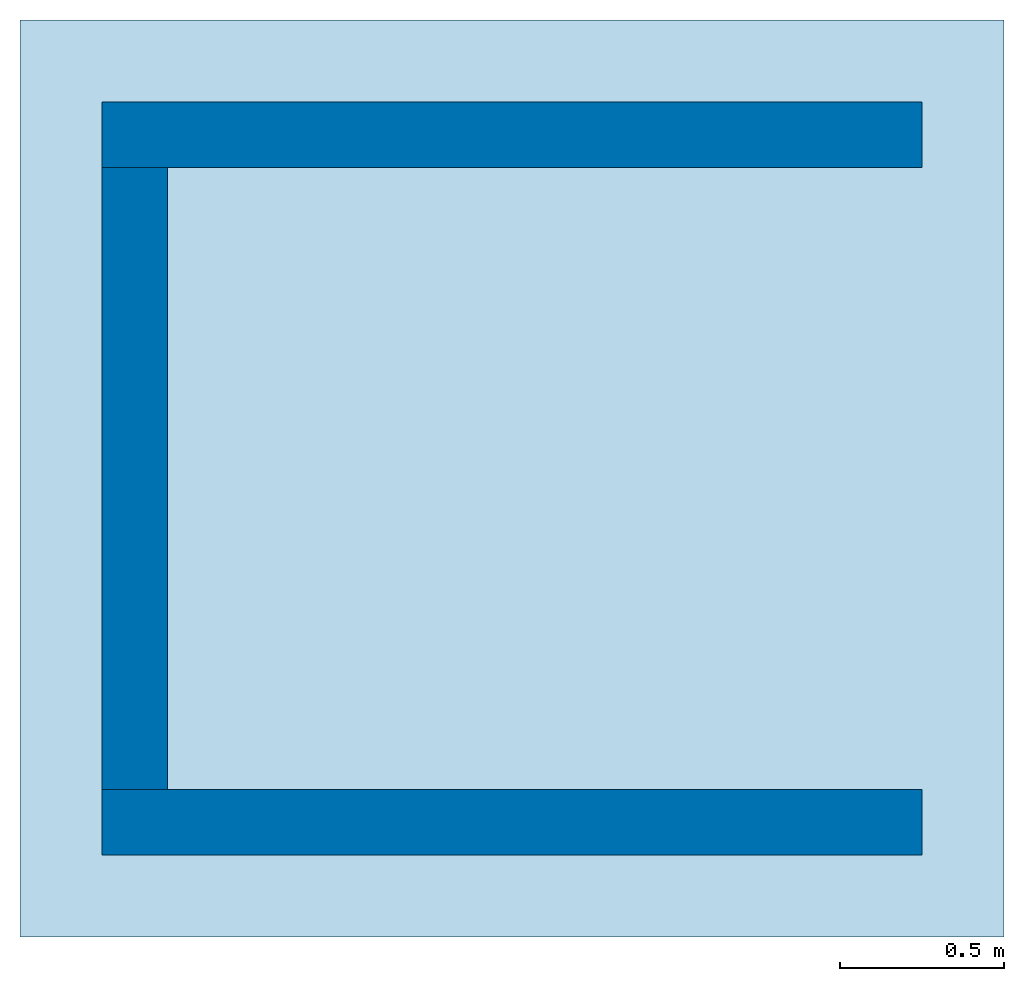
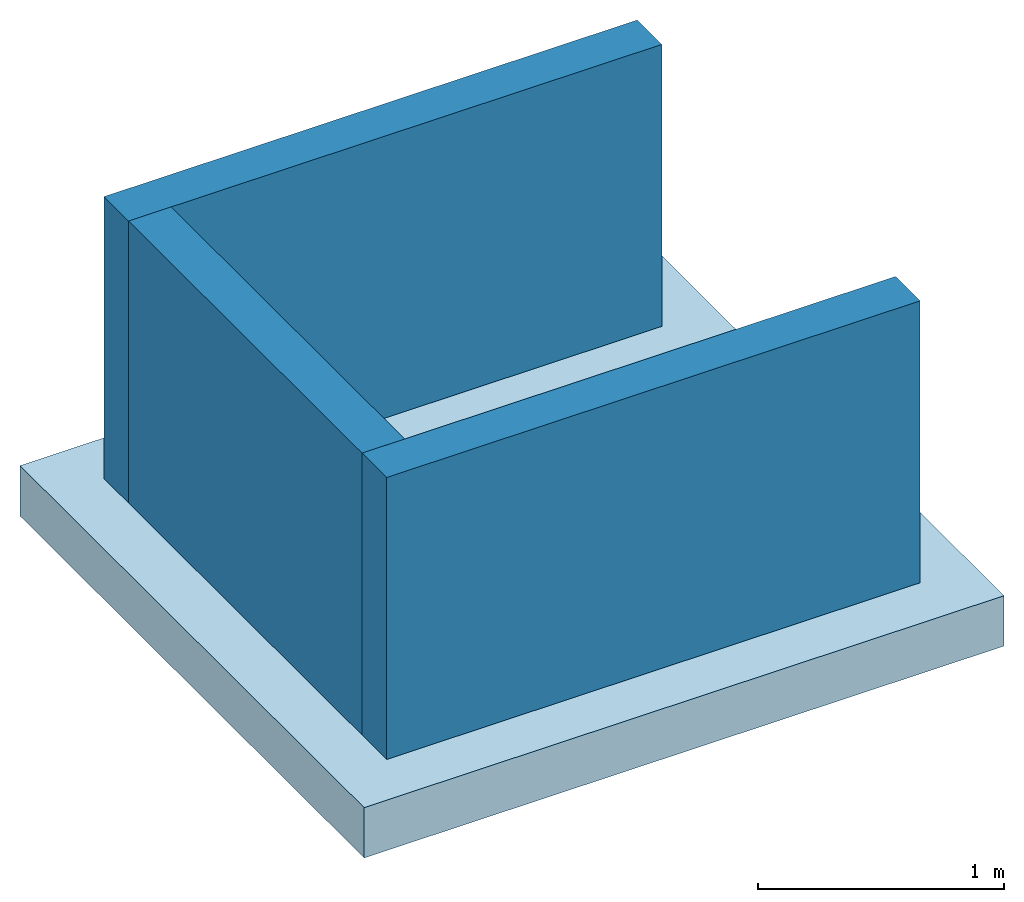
# One storey: 3 walls, 1 slab.
"""IFC4X3_ADD2 building model written with IfcOpenShell, lengths in millimetres."""

from ifc_helpers import new_model, si_unit, direction, frame, frame_2d, origin_with_axes, origin_2d_with_axis, place, context, subcontext, project, spatial, rectangle, extrude, material, type_object, element, save


model = new_model("IFC4X3_ADD2")

# Units and contexts
model_context = context("Model", 3, precision=1e-05, world=origin_with_axes(), true_north=direction((0.0, 1.0)))
body_context = subcontext(model_context, "Body", "Model", "MODEL_VIEW")
ifc_project = project(units=[si_unit("LENGTHUNIT", "METRE", prefix="MILLI"), si_unit("AREAUNIT", "SQUARE_METRE"), si_unit("VOLUMEUNIT", "CUBIC_METRE"), si_unit("PLANEANGLEUNIT", "RADIAN"), si_unit("TIMEUNIT", "SECOND"), si_unit("MASSUNIT", "GRAM")], contexts=[model_context])

# Site, building, storey
site_placement = place(None, origin_with_axes())
site = spatial("IfcSite", under=ifc_project, at=site_placement, Name="Site", CompositionType="ELEMENT")
building_placement = place(site_placement, origin_with_axes())
building = spatial("IfcBuilding", under=site, at=building_placement, Name="IFC Building Story")
storey_placement = place(building_placement, frame((0.0, 0.0, -10260.0), z_axis=(0.0, 0.0, 1.0), x_axis=(1.0, 0.0, 0.0)))
storey = spatial("IfcBuildingStorey", under=building, at=storey_placement, Name="TAW50", Elevation=-10260.0)

# Slab
ifc_material = material(Name="BB_Beton_Bestaand")
slab_type = type_object("IfcSlabType", Name="BB_Beton_Bestaand 250", PredefinedType="FLOOR", material=ifc_material)
slab_placement = place(storey_placement, frame((-20349.9999999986, 13365.00000000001, 2670.0), z_axis=(0.0, 0.0, 1.0), x_axis=(1.0, 0.0, 0.0)))
element("IfcSlab", 1, at=slab_placement, inside=storey, type_object=slab_type, Name="Floor:BB_XX_Vloer uit beton, 250 mm", ObjectType="Floor:BB_XX_Vloer uit beton, 250 mm", PredefinedType="FLOOR", context=body_context, shape_type="SweptSolid", body=[
    extrude(rectangle(XDim=3005.0000000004, YDim=2799.999999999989, at=origin_2d_with_axis()), frame((1502.5000000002, 1399.999999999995, 0.0), z_axis=(0.0, 0.0, 1.0), x_axis=(1.0, 0.0, 0.0)), (0.0, 0.0, 1.0), 249.999999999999),
])

# Walls
wall_type = type_object("IfcWallType", Name="BB_Beton_Bestaand 200", PredefinedType="NOTDEFINED", material=ifc_material)
wall_1_placement = place(storey_placement, origin_with_axes())
element("IfcWall", 2, at=wall_1_placement, inside=storey, type_object=wall_type, Name="Basic Wall:BB_XX_Wand uit beton, 200 mm", ObjectType="Basic Wall:BB_XX_Wand uit beton, 200 mm", PredefinedType="SOLIDWALL", context=body_context, shape_type="SweptSolid", body=[
    extrude(rectangle(XDim=1899.999999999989, YDim=199.9999999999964, at=frame_2d((0.0, 0.0), x_axis=(0.0, 1.0))), frame((-20000.0, 14764.99999999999, 2920.0), z_axis=(0.0, 0.0, 1.0), x_axis=(1.0, 0.0, 0.0)), (0.0, 0.0, 1.0), 1400.0),
])
wall_2_placement = place(storey_placement, origin_with_axes())
element("IfcWall", 3, at=wall_2_placement, inside=storey, type_object=wall_type, Name="Basic Wall:BB_XX_Wand uit beton, 200 mm", ObjectType="Basic Wall:BB_XX_Wand uit beton, 200 mm", PredefinedType="SOLIDWALL", context=body_context, shape_type="SweptSolid", body=[
    extrude(rectangle(XDim=2505.000000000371, YDim=199.9999999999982, at=origin_2d_with_axis()), frame((-18847.49999999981, 15815.0, 2920.0), z_axis=(0.0, 0.0, 1.0), x_axis=(1.0, 0.0, 0.0)), (0.0, 0.0, 1.0), 1400.0),
])
wall_3_placement = place(storey_placement, origin_with_axes())
element("IfcWall", 4, at=wall_3_placement, inside=storey, type_object=wall_type, Name="Basic Wall:BB_XX_Wand uit beton, 200 mm", ObjectType="Basic Wall:BB_XX_Wand uit beton, 200 mm", PredefinedType="SOLIDWALL", context=body_context, shape_type="SweptSolid", body=[
    extrude(rectangle(XDim=2505.000000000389, YDim=199.9999999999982, at=origin_2d_with_axis()), frame((-18847.4999999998, 13715.0, 2920.0), z_axis=(0.0, 0.0, 1.0), x_axis=(1.0, 0.0, 0.0)), (0.0, 0.0, 1.0), 1400.0),
])

save(model, "model.ifc")
